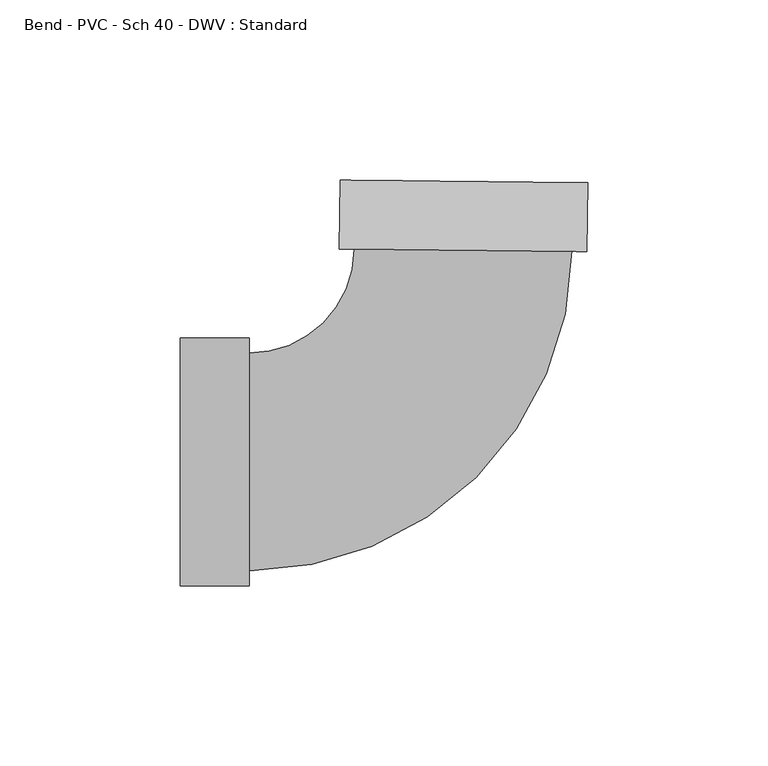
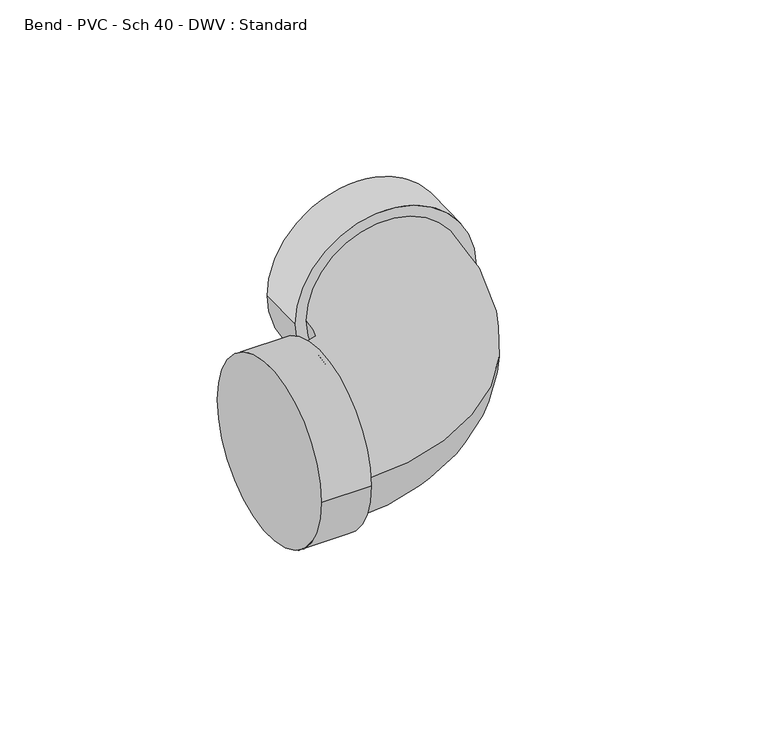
"""IFC4 building model written with IfcOpenShell, lengths in millimetres: pipe fitting geometry, Bend - PVC - Sch 40 - DWV : Standard."""

import ifcopenshell
import ifcopenshell.guid

model = None  # the IFC model being written
_history = None  # IfcOwnerHistory: only IFC2X3 demands one
_inside = {}  # id of a spatial element -> (the spatial element, [elements in it])
_under = {}  # id of a project, library or spatial element -> (it, [spatial elements below it])
_declared = {}  # id of a project -> (the project, [libraries it declares])
_typed = {}  # id of a type object -> (the type object, [elements of that type])
_made_of = {}  # id of a material, layer set ... -> (it, [elements and type objects made of it])


def new_model(schema):
    """Start an empty IFC model of exactly this schema.

    Asked for "IFC4X3", IfcOpenShell would pick the latest addendum, in which some entities
    have other attributes; the version numbers below select the first issue.
    IFC2X3 requires an IfcOwnerHistory on every rooted entity: one is made here for all.
    """
    global model, _history
    if schema == "IFC4X3":
        model = ifcopenshell.file(schema_version=(4, 3, 0, 0))
    else:
        model = ifcopenshell.file(schema=schema)
    _inside.clear()
    _under.clear()
    _declared.clear()
    _typed.clear()
    _made_of.clear()
    _history = None
    if model.schema == "IFC2X3":
        org = make("IfcOrganization", Name="unknown")
        user = make(
            "IfcPersonAndOrganization",
            ThePerson=make("IfcPerson", FamilyName="unknown"),
            TheOrganization=org,
        )
        app = make(
            "IfcApplication",
            ApplicationDeveloper=org,
            Version="unknown",
            ApplicationFullName="unknown",
            ApplicationIdentifier="unknown",
        )
        _history = make(
            "IfcOwnerHistory",
            OwningUser=user,
            OwningApplication=app,
            ChangeAction="ADDED",
            CreationDate=0,
        )
    return model


def make(cls, **values):
    """One entity of the class cls with the attributes given. An attribute that is None is left unset."""
    return model.create_entity(
        cls, **{name: value for name, value in values.items() if value is not None}
    )


def rooted(cls, **values):
    """An entity with a GlobalId (a new one), such as an element, a storey or a relation."""
    return make(cls, GlobalId=ifcopenshell.guid.new(), OwnerHistory=_history, **values)


def si_unit(unit_type, name, prefix=None):
    """IfcSIUnit, for example si_unit("LENGTHUNIT", "METRE", prefix="MILLI")."""
    return make("IfcSIUnit", UnitType=unit_type, Prefix=prefix, Name=name)


def assignment(units):
    """IfcUnitAssignment: the units of a project."""
    return None if units is None else make("IfcUnitAssignment", Units=units)


def point(xyz):
    """IfcCartesianPoint."""
    return None if xyz is None else make("IfcCartesianPoint", Coordinates=xyz)


def direction(xyz):
    """IfcDirection."""
    return None if xyz is None else make("IfcDirection", DirectionRatios=xyz)


def frame(location, z_axis=None, x_axis=None):
    """IfcAxis2Placement3D, a coordinate frame: its origin and axes. An axis left out is left unset."""
    return make(
        "IfcAxis2Placement3D",
        Location=point(location),
        Axis=direction(z_axis),
        RefDirection=direction(x_axis),
    )


def origin():
    """The frame at (0, 0, 0) with its axes left unset."""
    return frame((0.0, 0.0, 0.0))


def place(relative_to, where):
    """IfcLocalPlacement: puts the frame where relative to a parent placement (None: the world)."""
    return make(
        "IfcLocalPlacement", PlacementRelTo=relative_to, RelativePlacement=where
    )


def context(
    kind, dimensions, precision=None, world=None, true_north=None, identifier=None
):
    """IfcGeometricRepresentationContext, for example the 3D "Model" context."""
    return make(
        "IfcGeometricRepresentationContext",
        ContextIdentifier=identifier,
        ContextType=kind,
        CoordinateSpaceDimension=dimensions,
        Precision=precision,
        WorldCoordinateSystem=world,
        TrueNorth=true_north,
    )


def project(units=None, contexts=None):
    """IfcProject with its units and contexts."""
    return rooted(
        "IfcProject",
        Name="project",
        RepresentationContexts=contexts,
        UnitsInContext=assignment(units),
    )


def spatial(cls, under=None, at=None, **own):
    """A site, building, storey or space (cls), placed at a placement, below another one or the project."""
    s = rooted(cls, ObjectPlacement=at, **own)
    if under is not None:
        _under.setdefault(under.id(), (under, []))[1].append(s)
    return s


def circle_curve(where, radius):
    """IfcCircle in the frame where."""
    return make("IfcCircle", Position=where, Radius=radius)


def ellipse_curve(where, semi_axis1, semi_axis2):
    """IfcEllipse in the frame where."""
    return make(
        "IfcEllipse", Position=where, SemiAxis1=semi_axis1, SemiAxis2=semi_axis2
    )


def trimmed(basis, trim1, trim2, sense, master):
    """IfcTrimmedCurve: the piece of a basis curve between two trims."""
    return make(
        "IfcTrimmedCurve",
        BasisCurve=basis,
        Trim1=trim1,
        Trim2=trim2,
        SenseAgreement=sense,
        MasterRepresentation=master,
    )


def shape(context_of_items, identifier, shape_type, items):
    """IfcShapeRepresentation: the items that make up one representation, for example the "Body"."""
    return make(
        "IfcShapeRepresentation",
        ContextOfItems=context_of_items,
        RepresentationIdentifier=identifier,
        RepresentationType=shape_type,
        Items=items,
    )


def source(mapping_origin, context_of_items, identifier, shape_type, items):
    """IfcRepresentationMap: a shape defined once, which mapped items show again and again."""
    return make(
        "IfcRepresentationMap",
        MappingOrigin=mapping_origin,
        MappedRepresentation=shape(context_of_items, identifier, shape_type, items),
    )


def transform(
    local_origin,
    x_axis=None,
    y_axis=None,
    z_axis=None,
    scale=None,
    scale2=None,
    scale3=None,
    uniform=True,
):
    """IfcCartesianTransformationOperator3D, or its non-uniform kind. x_axis, y_axis, z_axis: its Axis1, 2, 3."""
    if uniform:
        return make(
            "IfcCartesianTransformationOperator3D",
            Axis1=direction(x_axis),
            Axis2=direction(y_axis),
            LocalOrigin=point(local_origin),
            Scale=scale,
            Axis3=direction(z_axis),
        )
    return make(
        "IfcCartesianTransformationOperator3DnonUniform",
        Axis1=direction(x_axis),
        Axis2=direction(y_axis),
        LocalOrigin=point(local_origin),
        Scale=scale,
        Axis3=direction(z_axis),
        Scale2=scale2,
        Scale3=scale3,
    )


def mapped(mapping_source, mapping_target):
    """IfcMappedItem: shows the shape of a source again, moved by a transform."""
    return make(
        "IfcMappedItem", MappingSource=mapping_source, MappingTarget=mapping_target
    )


def made_of(thing, what):
    """Note that an element or type object is made of a material, layer set ...; save() writes the relation."""
    if what is not None:
        _made_of.setdefault(what.id(), (what, []))[1].append(thing)
    return thing


def element(
    cls,
    number,
    at=None,
    inside=None,
    cuts=None,
    type_object=None,
    material=None,
    context=None,
    identifier="Body",
    shape_type=None,
    held_by="IfcProductDefinitionShape",
    body=None,
    shapes=None,
    **own,
):
    """One element of the class cls, such as IfcWall. Its Tag is "e" and its number.

    at: its placement. inside: the storey or other place that contains it. cuts: it is an
    opening in that element (IfcRelVoidsElement). A single representation is given by context,
    identifier, shape_type and body (its items); several are given by shapes. held_by: the class
    of the entity that holds the representations. save() writes the other relations.
    """
    e = rooted(cls, Tag="e%d" % number, ObjectPlacement=at, **own)
    if body is not None:
        shapes = [shape(context, identifier, shape_type, body)]
    if shapes is not None:
        e.Representation = make(held_by, Representations=shapes)
    if inside is not None:
        _inside.setdefault(inside.id(), (inside, []))[1].append(e)
    if cuts is not None:
        rooted(
            "IfcRelVoidsElement", RelatingBuildingElement=cuts, RelatedOpeningElement=e
        )
    if type_object is not None:
        _typed.setdefault(type_object.id(), (type_object, []))[1].append(e)
    return made_of(e, material)


def aggregate(whole, parts):
    """IfcRelAggregates: a whole, such as a stair, and the parts it consists of."""
    return rooted("IfcRelAggregates", RelatingObject=whole, RelatedObjects=parts)


def save(model, path):
    """Write the relations noted so far, then the file.

    IfcRelAggregates (storeys below a building ...), IfcRelContainedInSpatialStructure (elements
    in a storey), IfcRelDefinesByType, IfcRelAssociatesMaterial and IfcRelDeclares: one each for
    every whole, place, type object, material and project.
    """
    for whole, parts in _under.values():
        aggregate(whole, parts)
    for where, things in _inside.values():
        rooted(
            "IfcRelContainedInSpatialStructure",
            RelatedElements=things,
            RelatingStructure=where,
        )
    for kind, things in _typed.values():
        rooted("IfcRelDefinesByType", RelatedObjects=things, RelatingType=kind)
    for what, things in _made_of.values():
        rooted("IfcRelAssociatesMaterial", RelatedObjects=things, RelatingMaterial=what)
    for by, libraries in _declared.values():
        rooted("IfcRelDeclares", RelatingContext=by, RelatedDefinitions=libraries)
    model.write(path)


def plane_surface(at):
    """IfcPlane: the flat surface through the origin of the frame at, square to its z axis."""
    return make("IfcPlane", Position=at)


def cylinder_surface(at, radius):
    """IfcCylindricalSurface: all points at the distance radius from the z axis of the frame at."""
    return make("IfcCylindricalSurface", Position=at, Radius=radius)


def revolved_surface(curve, axis_point, axis_direction):
    """IfcSurfaceOfRevolution: the curve turned about the line through axis_point along axis_direction."""
    return make(
        "IfcSurfaceOfRevolution",
        SweptCurve=make("IfcArbitraryOpenProfileDef", ProfileType="CURVE", Curve=curve),
        AxisPosition=make("IfcAxis1Placement", Location=point(axis_point), Axis=direction(axis_direction)),
    )


def advanced_brep(points, edges, surfaces, faces):
    """IfcAdvancedBrep: a solid bounded by faces that lie on surfaces and meet in shared edges.

    An edge is (start, end): straight between two places in points (the first is 0);
    or (start, end, curve); or (start, end, curve, False) where it runs against its curve.
    A face is (place in surfaces, loops), or (place, loops, False) where it looks against
    its surface's normal. A loop lists edges by number (the first is 1), with a minus sign
    where the edge is run from its end to its start. The first loop is the outer one.
    """
    corners = [point(p) for p in points]
    vertices = [make("IfcVertexPoint", VertexGeometry=c) for c in corners]
    made = []
    for start, end, *more in edges:
        made.append(
            make(
                "IfcEdgeCurve",
                EdgeStart=vertices[start],
                EdgeEnd=vertices[end],
                EdgeGeometry=more[0] if more else make("IfcPolyline", Points=[corners[start], corners[end]]),
                SameSense=more[1] if len(more) > 1 else True,
            )
        )
    hull = []
    for where, loops, *sense in faces:
        bounds = []
        for j, loop in enumerate(loops):
            ring = [make("IfcOrientedEdge", EdgeElement=made[abs(k) - 1], Orientation=k > 0) for k in loop]
            bounds.append(
                make(
                    "IfcFaceOuterBound" if j == 0 else "IfcFaceBound",
                    Bound=make("IfcEdgeLoop", EdgeList=ring),
                    Orientation=True,
                )
            )
        hull.append(make("IfcAdvancedFace", Bounds=bounds, FaceSurface=surfaces[where], SameSense=sense[0] if sense else True))
    return make("IfcAdvancedBrep", Outer=make("IfcClosedShell", CfsFaces=hull))


def bend_pvc_sch_40_dwv_standard_fdf790a6(model_context):
    return source(origin(), model_context, "Body", "AdvancedBrep", [
        advanced_brep(
        [(-77.8002, -34.3154, 0.0), (-77.8002, 34.3154, 0.0), (-58.7502, -34.3154, 0.0), (-58.7502, 34.3154, 0.0), (-58.7502, -30.1625, 0.0), (-58.7502, 30.1625, 0.0), (-29.5491013, 59.0610956, 0.0), (30.7726281, 58.4329339, 0.0), (34.9253029, 58.38969, 0.0), (-33.7017762, 59.1043396, 0.0), (35.1236698, 77.4386571, 0.0), (-33.5034093, 78.1533068, 0.0)],
        [
            (0, 1, circle_curve(frame((-77.8002, 0.0, 0.0), z_axis=(-1.0, 0.0, 0.0), x_axis=(0.0, 1.0, 0.0)), 34.3154)),
            (1, 0, circle_curve(frame((-77.8002, 0.0, 0.0), z_axis=(-1.0, 0.0, 0.0), x_axis=(0.0, 1.0, 0.0)), 34.3154)),
            (2, 3, circle_curve(frame((-58.7502, 0.0, 0.0), z_axis=(1.0, 0.0, 0.0), x_axis=(0.0, 1.0, 0.0)), 34.3154)),
            (3, 2, circle_curve(frame((-58.7502, 0.0, 0.0), z_axis=(1.0, 0.0, 0.0), x_axis=(0.0, 1.0, 0.0)), 34.3154)),
            (4, 5, circle_curve(frame((-58.7502, 0.0, 0.0), z_axis=(-1.0, 0.0, 0.0), x_axis=(0.0, 1.0, 0.0)), 30.1625)),
            (5, 4, circle_curve(frame((-58.7502, 0.0, 0.0), z_axis=(-1.0, 0.0, 0.0), x_axis=(0.0, 1.0, 0.0)), 30.1625)),
            (0, 2),
            (3, 1),
            (6, 5, circle_curve(frame((-58.7502, 59.3651819, 0.0), z_axis=(0.0, 0.0, -1.0), x_axis=(0.0, -1.0, 0.0)), 29.2026819)),
            (4, 7, circle_curve(frame((-58.7502, 59.3651819, 0.0), z_axis=(0.0, 0.0, 1.0), x_axis=(0.0, -1.0, 0.0)), 89.5276819)),
            (7, 6, circle_curve(frame((0.6117634, 58.7470148, 0.0), z_axis=(-0.010412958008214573, -0.9999457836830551, 0.0), x_axis=(-0.9999457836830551, 0.010412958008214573, 0.0)), 30.1625)),
            (6, 7, circle_curve(frame((0.6117634, 58.7470148, 0.0), z_axis=(-0.010412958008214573, -0.9999457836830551, 0.0), x_axis=(-0.9999457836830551, 0.010412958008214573, 0.0)), 30.1625)),
            (8, 9, circle_curve(frame((0.6117634, 58.7470148, 0.0), z_axis=(-0.0104129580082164, -0.9999457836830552, 0.0), x_axis=(-0.9999457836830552, 0.0104129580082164, 0.0)), 34.3154)),
            (9, 8, circle_curve(frame((0.6117634, 58.7470148, 0.0), z_axis=(-0.0104129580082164, -0.9999457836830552, 0.0), x_axis=(-0.9999457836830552, 0.0104129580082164, 0.0)), 34.3154)),
            (10, 11, circle_curve(frame((0.8101302, 77.795982, 0.0), z_axis=(0.0104129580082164, 0.9999457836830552, 0.0), x_axis=(-0.9999457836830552, 0.0104129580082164, 0.0)), 34.3154)),
            (11, 10, circle_curve(frame((0.8101302, 77.795982, 0.0), z_axis=(0.0104129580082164, 0.9999457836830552, 0.0), x_axis=(-0.9999457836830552, 0.0104129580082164, 0.0)), 34.3154)),
            (8, 10),
            (11, 9),
        ],
        [
            plane_surface(frame((-77.8002, 0.0, 0.0), z_axis=(-1.0, 0.0, 0.0), x_axis=(0.0, 0.0, 1.0))),
            plane_surface(frame((-58.7502, 0.0, 0.0), z_axis=(1.0, 0.0, 0.0), x_axis=(0.0, 0.0, 1.0))),
            cylinder_surface(frame((-77.8002, 0.0, 0.0), z_axis=(-1.0, 0.0, 0.0), x_axis=(0.0, 1.0, 0.0)), 34.3154),
            revolved_surface(trimmed(ellipse_curve(frame((-58.7502, 0.0, 0.0), z_axis=(-1.0, 0.0, 0.0), x_axis=(0.0, 1.0, 0.0)), 30.1625, 30.1625), [point((-58.7502, -30.1625, 0.0))], [point((-58.7502, 30.1625, 0.0))], True, "CARTESIAN"), (-58.7502, 59.3651819, 0.0), (0.0, 0.0, 1.0)),
            revolved_surface(trimmed(ellipse_curve(frame((-58.7502, 0.0, 0.0), z_axis=(-1.0, 0.0, 0.0), x_axis=(0.0, 1.0, 0.0)), 30.1625, 30.1625), [point((-58.7502, 30.1625, 0.0))], [point((-58.7502, -30.1625, 0.0))], True, "CARTESIAN"), (-58.7502, 59.3651819, 0.0), (0.0, 0.0, 1.0)),
            plane_surface(frame((0.6117634, 58.7470148, 0.0), z_axis=(-0.0104129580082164, -0.9999457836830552, 0.0), x_axis=(0.0, 0.0, 1.0))),
            plane_surface(frame((0.8101302, 77.795982, 0.0), z_axis=(0.0104129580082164, 0.9999457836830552, 0.0), x_axis=(0.0, 0.0, 1.0))),
            cylinder_surface(frame((0.6117634, 58.7470148, 0.0), z_axis=(-0.0104129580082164, -0.9999457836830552, 0.0), x_axis=(-0.9999457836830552, 0.0104129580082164, 0.0)), 34.3154),
        ],
        [
            (0, [[1, 2]]),
            (1, [[3, 4], [5, 6]]),
            (2, [[-1, 7, -4, 8]]),
            (2, [[-2, -8, -3, -7]]),
            (3, [[9, -5, 10, 11]]),
            (4, [[-9, 12, -10, -6]]),
            (5, [[13, 14], [-11, -12]]),
            (6, [[15, 16]]),
            (7, [[-13, 17, -16, 18]]),
            (7, [[-14, -18, -15, -17]]),
        ],
    ),
    ])


if __name__ == "__main__":
    model = new_model("IFC4")
    model_context = context("Model", 3, world=origin())
    ifc_project = project(units=[si_unit("LENGTHUNIT", "METRE", prefix="MILLI")], contexts=[model_context])
    site = spatial("IfcSite", under=ifc_project)
    building = spatial("IfcBuilding", under=site)
    placement = place(None, origin())
    bend_pvc_sch_40_dwv_standard_shape = bend_pvc_sch_40_dwv_standard_fdf790a6(model_context)
    element("IfcPipeFitting", 1, ObjectType="Bend - PVC - Sch 40 - DWV : Standard", at=placement, inside=building, context=model_context, shape_type="MappedRepresentation", body=[
        mapped(bend_pvc_sch_40_dwv_standard_shape, transform((0.0, 0.0, 0.0), x_axis=(1.0, 0.0, 0.0), y_axis=(0.0, 1.0, 0.0), z_axis=(0.0, 0.0, 1.0))),
    ])
    save(model, "model.ifc")
